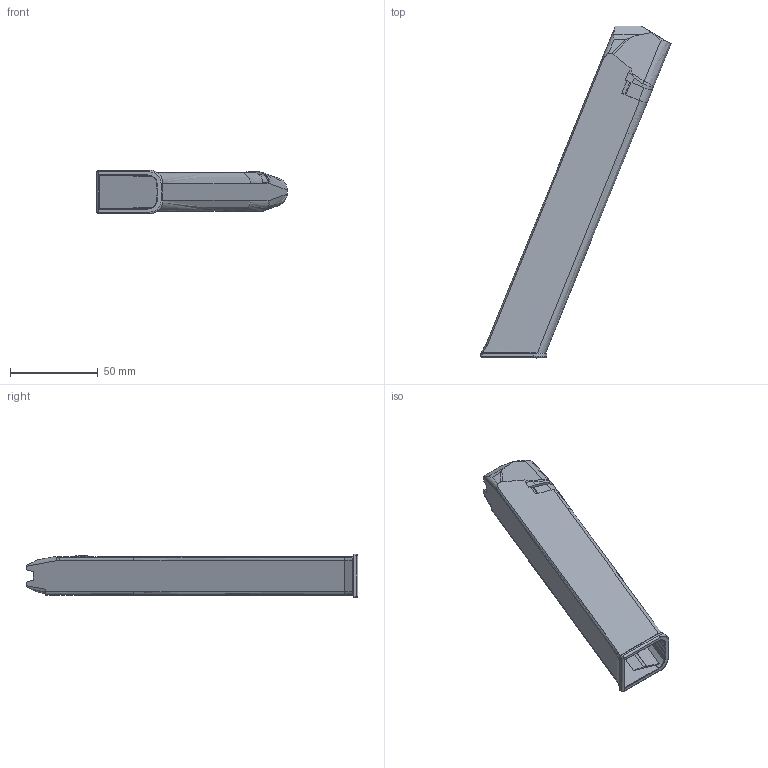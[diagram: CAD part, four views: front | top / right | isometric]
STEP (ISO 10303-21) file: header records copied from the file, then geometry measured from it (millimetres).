
FILE_DESCRIPTION(/* description */ (''),/* implementation_level */ '2;1');
FILE_NAME(/* name */ 'E:\MenMag v2.0\Menendez Magazine Pack v2.0\STEP\Mag Body - Extendez (30 Round).stp',/* time_stamp */ '2021-03-20T20:54:18-05:00',/* author */ ('johne'),/* organization */ (''),/* preprocessor_version */ 'ST-DEVELOPER v18',/* originating_system */ 'Autodesk Inventor 2020',/* authorisation */ '');
FILE_SCHEMA (('AUTOMOTIVE_DESIGN { 1 0 10303 214 3 1 1 }'));
Length unit declared in the file: inch
Products named in the file (2): Assembly58; Extendez Mag Body v2.18 Bottom
Assembly tree (1 placements, depth 2):
  Assembly58
    Extendez Mag Body v2.18 Bottom
Bounding box: 108.21 x 188.82 x 24.87 mm (x, y, z)
Volume: 33900.4 mm3; surface area: 39999.5 mm2
Topology: 1 solids, 9 shells, 226 faces, 581 edges, 366 vertices
Faces by surface type: plane 96, bspline 80, cylinder 48, cone 2
Entity records: 8929 total; most frequent: CARTESIAN_POINT 3672, ORIENTED_EDGE 1150, DIRECTION 930, EDGE_CURVE 575, VERTEX_POINT 366, AXIS2_PLACEMENT_3D 318, LINE 294, VECTOR 294
